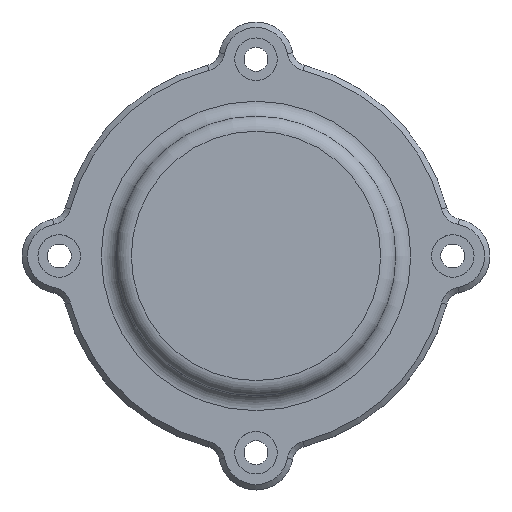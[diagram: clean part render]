
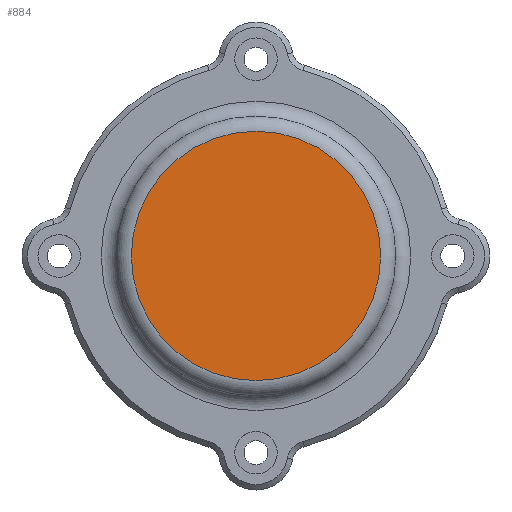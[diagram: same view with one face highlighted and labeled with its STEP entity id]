
A CAD part, top view. The second image highlights one B-rep face of the part: STEP entity #884.
In plain terms, the highlighted planar face has unit normal (0, 0, 1).
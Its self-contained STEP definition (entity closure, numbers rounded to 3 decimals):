
#171=PLANE('',#1036);
#220=FACE_OUTER_BOUND('',#289,.T.);
#289=EDGE_LOOP('',(#775));
#374=CIRCLE('',#1033,23.443);
#452=VERTEX_POINT('',#1596);
#566=EDGE_CURVE('',#452,#452,#374,.T.);
#775=ORIENTED_EDGE('',*,*,#566,.F.);
#884=ADVANCED_FACE('',(#220),#171,.F.);
#1033=AXIS2_PLACEMENT_3D('',#1598,#1324,#1325);
#1036=AXIS2_PLACEMENT_3D('',#1603,#1331,#1332);
#1324=DIRECTION('center_axis',(0.,0.,-1.));
#1325=DIRECTION('ref_axis',(-1.,0.,0.));
#1331=DIRECTION('center_axis',(0.,0.,-1.));
#1332=DIRECTION('ref_axis',(-1.,0.,0.));
#1596=CARTESIAN_POINT('',(23.443,-30.25,12.));
#1598=CARTESIAN_POINT('Origin',(0.,-30.25,12.));
#1603=CARTESIAN_POINT('Origin',(0.,-30.25,12.));
